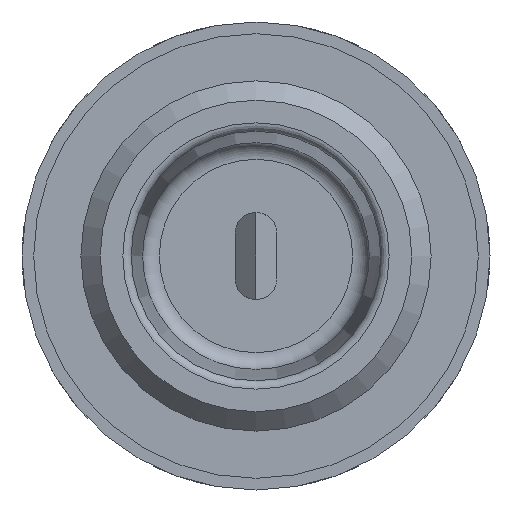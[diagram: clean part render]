
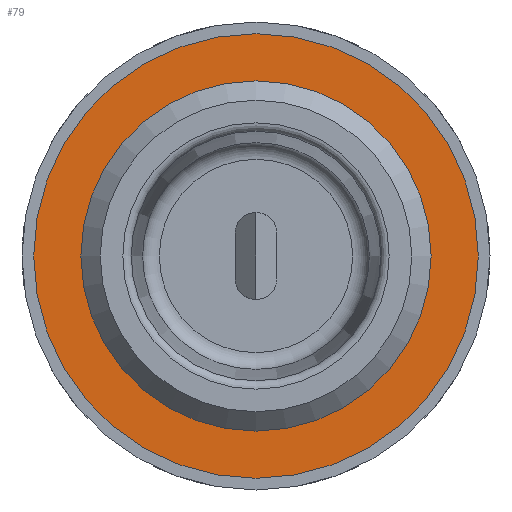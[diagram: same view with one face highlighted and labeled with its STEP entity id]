
A CAD part, left-side view. The second image highlights one B-rep face of the part: STEP entity #79.
In plain terms, the highlighted planar face has unit normal (-1, 0, 0).
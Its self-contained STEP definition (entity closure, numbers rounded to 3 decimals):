
#79 = ADVANCED_FACE( '', ( #148, #149 ), #150, .T. );
#148 = FACE_BOUND( '', #287, .T. );
#149 = FACE_OUTER_BOUND( '', #288, .T. );
#150 = PLANE( '', #289 );
#287 = EDGE_LOOP( '', ( #440 ) );
#288 = EDGE_LOOP( '', ( #441 ) );
#289 = AXIS2_PLACEMENT_3D( '', #442, #443, #444 );
#440 = ORIENTED_EDGE( '', *, *, #909, .T. );
#441 = ORIENTED_EDGE( '', *, *, #910, .F. );
#442 = CARTESIAN_POINT( '', ( 9.9, 13.3, 0. ) );
#443 = DIRECTION( '', ( -1., 0., 0. ) );
#444 = DIRECTION( '', ( 0., -1., 0. ) );
#909 = EDGE_CURVE( '', #1066, #1066, #1067, .T. );
#910 = EDGE_CURVE( '', #1068, #1068, #1069, .T. );
#1066 = VERTEX_POINT( '', #1326 );
#1067 = CIRCLE( '', #1327, 10.478 );
#1068 = VERTEX_POINT( '', #1328 );
#1069 = CIRCLE( '', #1329, 13.3 );
#1326 = CARTESIAN_POINT( '', ( 9.9, 10.478, 0. ) );
#1327 = AXIS2_PLACEMENT_3D( '', #1700, #1701, #1702 );
#1328 = CARTESIAN_POINT( '', ( 9.9, 13.3, 0. ) );
#1329 = AXIS2_PLACEMENT_3D( '', #1703, #1704, #1705 );
#1700 = CARTESIAN_POINT( '', ( 9.9, 0., 0. ) );
#1701 = DIRECTION( '', ( 1., 0., 0. ) );
#1702 = DIRECTION( '', ( 0., 1., 0. ) );
#1703 = CARTESIAN_POINT( '', ( 9.9, 0., 0. ) );
#1704 = DIRECTION( '', ( 1., 0., 0. ) );
#1705 = DIRECTION( '', ( 0., 1., 0. ) );
